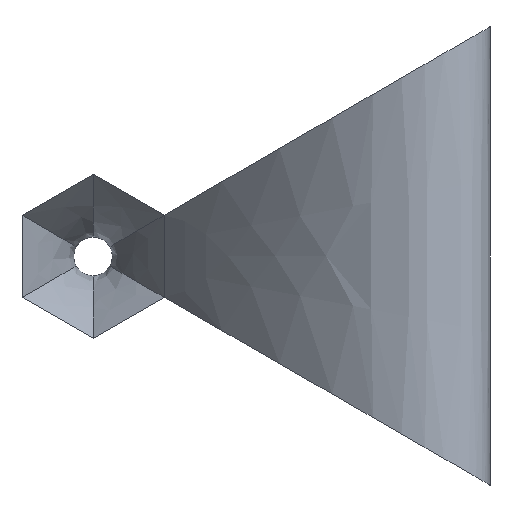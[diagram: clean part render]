
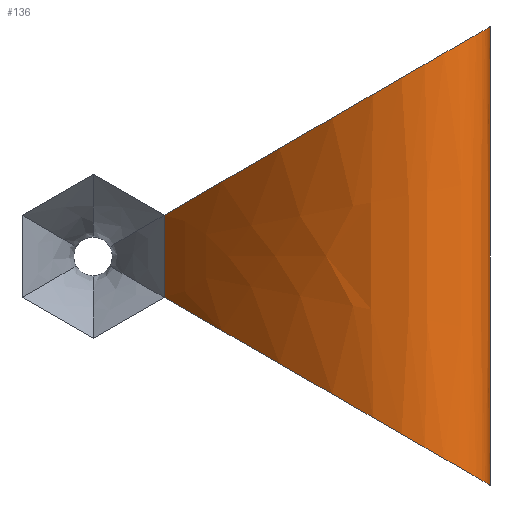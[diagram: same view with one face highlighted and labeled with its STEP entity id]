
A CAD part, top view. The second image highlights one B-rep face of the part: STEP entity #136.
In plain terms, the highlighted free-form (B-spline) face has degree [3, 3] with [15, 4] control points.
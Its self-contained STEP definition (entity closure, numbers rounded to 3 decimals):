
#19=FACE_OUTER_BOUND('',#26,.T.);
#26=EDGE_LOOP('',(#119,#120,#121,#122));
#33=LINE('',#1041,#41);
#34=LINE('',#1058,#42);
#41=VECTOR('',#180,300.222);
#42=VECTOR('',#181,53.722);
#49=B_SPLINE_CURVE_WITH_KNOTS('',3,(#1025,#1026,#1027,#1028,#1029,#1030,
#1031,#1032,#1033,#1034,#1035,#1036,#1037,#1038,#1039),.UNSPECIFIED.,.F.,
 .F.,(4,1,1,1,1,1,1,1,1,1,1,1,4),(0.,0.143,0.286,
0.429,0.571,0.619,0.714,
0.762,0.857,0.893,0.929,
0.964,1.),.UNSPECIFIED.);
#50=B_SPLINE_CURVE_WITH_KNOTS('',3,(#1043,#1044,#1045,#1046,#1047,#1048,
#1049,#1050,#1051,#1052,#1053,#1054,#1055,#1056,#1057),.UNSPECIFIED.,.F.,
 .F.,(4,1,1,1,1,1,1,1,1,1,1,1,4),(0.,0.143,0.286,
0.429,0.571,0.619,0.714,
0.762,0.857,0.893,0.929,
0.964,1.),.UNSPECIFIED.);
#69=VERTEX_POINT('',#1023);
#70=VERTEX_POINT('',#1024);
#71=VERTEX_POINT('',#1040);
#72=VERTEX_POINT('',#1042);
#91=EDGE_CURVE('',#69,#70,#49,.T.);
#92=EDGE_CURVE('',#70,#71,#33,.T.);
#93=EDGE_CURVE('',#72,#71,#50,.T.);
#94=EDGE_CURVE('',#69,#72,#34,.T.);
#119=ORIENTED_EDGE('',*,*,#91,.T.);
#120=ORIENTED_EDGE('',*,*,#92,.T.);
#121=ORIENTED_EDGE('',*,*,#93,.F.);
#122=ORIENTED_EDGE('',*,*,#94,.F.);
#129=B_SPLINE_SURFACE_WITH_KNOTS('',3,3,((#963,#964,#965,#966),(#967,#968,
#969,#970),(#971,#972,#973,#974),(#975,#976,#977,#978),(#979,#980,#981,
#982),(#983,#984,#985,#986),(#987,#988,#989,#990),(#991,#992,#993,#994),
(#995,#996,#997,#998),(#999,#1000,#1001,#1002),(#1003,#1004,#1005,#1006),
(#1007,#1008,#1009,#1010),(#1011,#1012,#1013,#1014),(#1015,#1016,#1017,
#1018),(#1019,#1020,#1021,#1022)),.UNSPECIFIED.,.F.,.F.,.F.,(4,1,1,1,1,
1,1,1,1,1,1,1,4),(4,4),(0.,0.143,0.286,0.429,
0.571,0.619,0.714,0.762,
0.857,0.893,0.929,0.964,
1.),(0.,1.),.UNSPECIFIED.);
#136=ADVANCED_FACE('',(#19),#129,.T.);
#180=DIRECTION('',(0.,-1.,0.));
#181=DIRECTION('',(0.,-1.,0.));
#963=CARTESIAN_POINT('Ctrl Pts',(46.525,26.861,70.));
#964=CARTESIAN_POINT('Ctrl Pts',(46.525,8.954,70.));
#965=CARTESIAN_POINT('Ctrl Pts',(46.525,-8.954,70.));
#966=CARTESIAN_POINT('Ctrl Pts',(46.525,-26.861,70.));
#967=CARTESIAN_POINT('Ctrl Pts',(55.276,31.913,82.752));
#968=CARTESIAN_POINT('Ctrl Pts',(55.276,10.639,82.752));
#969=CARTESIAN_POINT('Ctrl Pts',(55.276,-10.639,82.752));
#970=CARTESIAN_POINT('Ctrl Pts',(55.276,-31.913,82.752));
#971=CARTESIAN_POINT('Ctrl Pts',(73.557,42.468,107.601));
#972=CARTESIAN_POINT('Ctrl Pts',(73.557,14.156,107.601));
#973=CARTESIAN_POINT('Ctrl Pts',(73.557,-14.156,107.601));
#974=CARTESIAN_POINT('Ctrl Pts',(73.557,-42.468,107.601));
#975=CARTESIAN_POINT('Ctrl Pts',(103.125,59.539,142.433));
#976=CARTESIAN_POINT('Ctrl Pts',(103.125,19.847,142.433));
#977=CARTESIAN_POINT('Ctrl Pts',(103.125,-19.847,142.433));
#978=CARTESIAN_POINT('Ctrl Pts',(103.125,-59.539,142.433));
#979=CARTESIAN_POINT('Ctrl Pts',(135.124,78.014,173.481));
#980=CARTESIAN_POINT('Ctrl Pts',(135.124,26.005,173.481));
#981=CARTESIAN_POINT('Ctrl Pts',(135.124,-26.005,173.481));
#982=CARTESIAN_POINT('Ctrl Pts',(135.124,-78.014,173.481));
#983=CARTESIAN_POINT('Ctrl Pts',(162.115,93.597,192.884));
#984=CARTESIAN_POINT('Ctrl Pts',(162.115,31.199,192.884));
#985=CARTESIAN_POINT('Ctrl Pts',(162.115,-31.199,192.884));
#986=CARTESIAN_POINT('Ctrl Pts',(162.115,-93.597,192.884));
#987=CARTESIAN_POINT('Ctrl Pts',(186.201,107.503,204.916));
#988=CARTESIAN_POINT('Ctrl Pts',(186.201,35.833,204.916));
#989=CARTESIAN_POINT('Ctrl Pts',(186.201,-35.833,204.916));
#990=CARTESIAN_POINT('Ctrl Pts',(186.201,-107.503,204.916));
#991=CARTESIAN_POINT('Ctrl Pts',(202.617,116.981,210.152));
#992=CARTESIAN_POINT('Ctrl Pts',(202.617,38.995,210.152));
#993=CARTESIAN_POINT('Ctrl Pts',(202.617,-38.995,210.152));
#994=CARTESIAN_POINT('Ctrl Pts',(202.617,-116.981,210.152));
#995=CARTESIAN_POINT('Ctrl Pts',(222.82,128.645,212.022));
#996=CARTESIAN_POINT('Ctrl Pts',(222.82,42.881,212.022));
#997=CARTESIAN_POINT('Ctrl Pts',(222.82,-42.881,212.022));
#998=CARTESIAN_POINT('Ctrl Pts',(222.82,-128.645,212.022));
#999=CARTESIAN_POINT('Ctrl Pts',(237.295,137.002,209.445));
#1000=CARTESIAN_POINT('Ctrl Pts',(237.295,45.668,209.445));
#1001=CARTESIAN_POINT('Ctrl Pts',(237.295,-45.668,209.445));
#1002=CARTESIAN_POINT('Ctrl Pts',(237.295,-137.002,209.445));
#1003=CARTESIAN_POINT('Ctrl Pts',(248.597,143.528,203.015));
#1004=CARTESIAN_POINT('Ctrl Pts',(248.597,47.841,203.015));
#1005=CARTESIAN_POINT('Ctrl Pts',(248.597,-47.841,203.015));
#1006=CARTESIAN_POINT('Ctrl Pts',(248.597,-143.528,203.015));
#1007=CARTESIAN_POINT('Ctrl Pts',(254.74,147.074,197.316));
#1008=CARTESIAN_POINT('Ctrl Pts',(254.74,49.026,197.316));
#1009=CARTESIAN_POINT('Ctrl Pts',(254.74,-49.026,197.316));
#1010=CARTESIAN_POINT('Ctrl Pts',(254.74,-147.074,197.316));
#1011=CARTESIAN_POINT('Ctrl Pts',(258.885,149.467,190.209));
#1012=CARTESIAN_POINT('Ctrl Pts',(258.885,49.822,190.209));
#1013=CARTESIAN_POINT('Ctrl Pts',(258.885,-49.822,190.209));
#1014=CARTESIAN_POINT('Ctrl Pts',(258.885,-149.467,190.209));
#1015=CARTESIAN_POINT('Ctrl Pts',(259.919,150.065,184.616));
#1016=CARTESIAN_POINT('Ctrl Pts',(259.919,50.023,184.616));
#1017=CARTESIAN_POINT('Ctrl Pts',(259.919,-50.023,184.616));
#1018=CARTESIAN_POINT('Ctrl Pts',(259.919,-150.065,184.616));
#1019=CARTESIAN_POINT('Ctrl Pts',(260.,150.111,181.608));
#1020=CARTESIAN_POINT('Ctrl Pts',(260.,50.037,181.608));
#1021=CARTESIAN_POINT('Ctrl Pts',(260.,-50.037,181.608));
#1022=CARTESIAN_POINT('Ctrl Pts',(260.,-150.111,181.608));
#1023=CARTESIAN_POINT('',(46.525,26.861,70.));
#1024=CARTESIAN_POINT('',(260.,150.111,181.608));
#1025=CARTESIAN_POINT('Ctrl Pts',(46.525,26.861,70.));
#1026=CARTESIAN_POINT('Ctrl Pts',(55.276,31.913,82.752));
#1027=CARTESIAN_POINT('Ctrl Pts',(73.557,42.468,107.601));
#1028=CARTESIAN_POINT('Ctrl Pts',(103.125,59.539,142.433));
#1029=CARTESIAN_POINT('Ctrl Pts',(135.124,78.014,173.481));
#1030=CARTESIAN_POINT('Ctrl Pts',(162.115,93.597,192.884));
#1031=CARTESIAN_POINT('Ctrl Pts',(186.201,107.503,204.916));
#1032=CARTESIAN_POINT('Ctrl Pts',(202.617,116.981,210.152));
#1033=CARTESIAN_POINT('Ctrl Pts',(222.82,128.645,212.022));
#1034=CARTESIAN_POINT('Ctrl Pts',(237.295,137.002,209.445));
#1035=CARTESIAN_POINT('Ctrl Pts',(248.597,143.528,203.015));
#1036=CARTESIAN_POINT('Ctrl Pts',(254.74,147.074,197.316));
#1037=CARTESIAN_POINT('Ctrl Pts',(258.885,149.467,190.209));
#1038=CARTESIAN_POINT('Ctrl Pts',(259.919,150.065,184.616));
#1039=CARTESIAN_POINT('Ctrl Pts',(260.,150.111,181.608));
#1040=CARTESIAN_POINT('',(260.,-150.111,181.608));
#1041=CARTESIAN_POINT('',(260.,150.111,181.608));
#1042=CARTESIAN_POINT('',(46.525,-26.861,70.));
#1043=CARTESIAN_POINT('Ctrl Pts',(46.525,-26.861,70.));
#1044=CARTESIAN_POINT('Ctrl Pts',(55.276,-31.913,82.752));
#1045=CARTESIAN_POINT('Ctrl Pts',(73.557,-42.468,107.601));
#1046=CARTESIAN_POINT('Ctrl Pts',(103.125,-59.539,142.433));
#1047=CARTESIAN_POINT('Ctrl Pts',(135.124,-78.014,173.481));
#1048=CARTESIAN_POINT('Ctrl Pts',(162.115,-93.597,192.884));
#1049=CARTESIAN_POINT('Ctrl Pts',(186.201,-107.503,204.916));
#1050=CARTESIAN_POINT('Ctrl Pts',(202.617,-116.981,210.152));
#1051=CARTESIAN_POINT('Ctrl Pts',(222.82,-128.645,212.022));
#1052=CARTESIAN_POINT('Ctrl Pts',(237.295,-137.002,209.445));
#1053=CARTESIAN_POINT('Ctrl Pts',(248.597,-143.528,203.015));
#1054=CARTESIAN_POINT('Ctrl Pts',(254.74,-147.074,197.316));
#1055=CARTESIAN_POINT('Ctrl Pts',(258.885,-149.467,190.209));
#1056=CARTESIAN_POINT('Ctrl Pts',(259.919,-150.065,184.616));
#1057=CARTESIAN_POINT('Ctrl Pts',(260.,-150.111,181.608));
#1058=CARTESIAN_POINT('',(46.525,26.861,70.));
